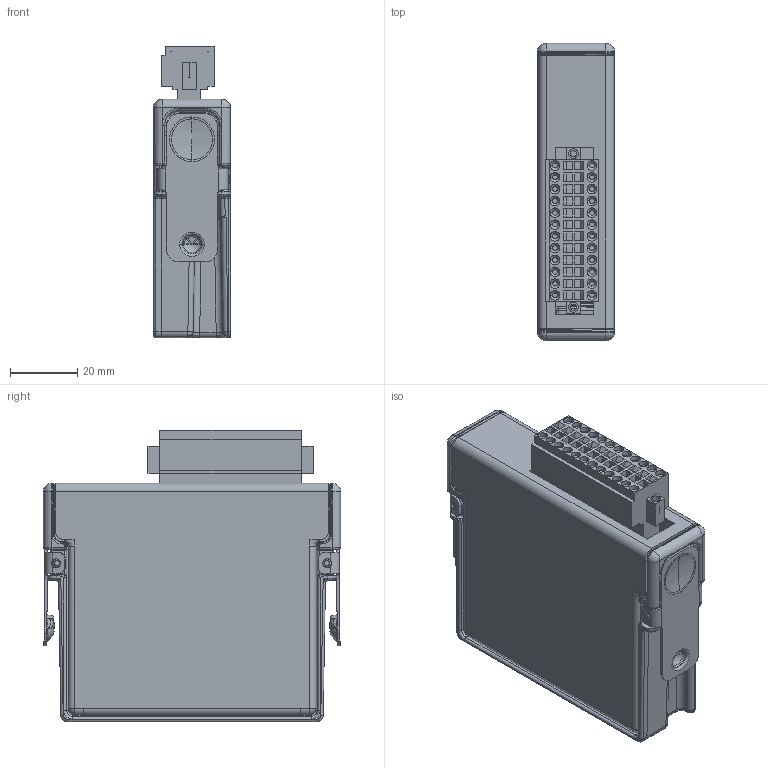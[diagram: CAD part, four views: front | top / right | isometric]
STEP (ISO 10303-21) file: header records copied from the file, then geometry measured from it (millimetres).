
FILE_DESCRIPTION((''),'2;1');
FILE_NAME('CD_NI-9235-6','2008-08-21T',('scarrasc'),(''),'PRO/ENGINEER BY PARAMETRIC TECHNOLOGY CORPORATION, 2006300','PRO/ENGINEER BY PARAMETRIC TECHNOLOGY CORPORATION, 2006300','');
FILE_SCHEMA(('CONFIG_CONTROL_DESIGN'));
Products named in the file (1): CD_NI-9235-6
Bounding box: 22.86 x 88.11 x 86.38 mm (x, y, z)
Volume: 42852.8 mm3; surface area: 47127.5 mm2
Topology: 11 solids, 11 shells, 1638 faces, 3816 edges, 2246 vertices
Faces by surface type: plane 678, cylinder 468, bspline 325, cone 66, torus 56, sphere 39, extrusion 6
Entity records: 61044 total; most frequent: CARTESIAN_POINT 26323, ORIENTED_EDGE 7568, DIRECTION 6502, EDGE_CURVE 3784, VERTEX_POINT 2246, AXIS2_PLACEMENT_3D 2224, VECTOR 2054, LINE 2048
